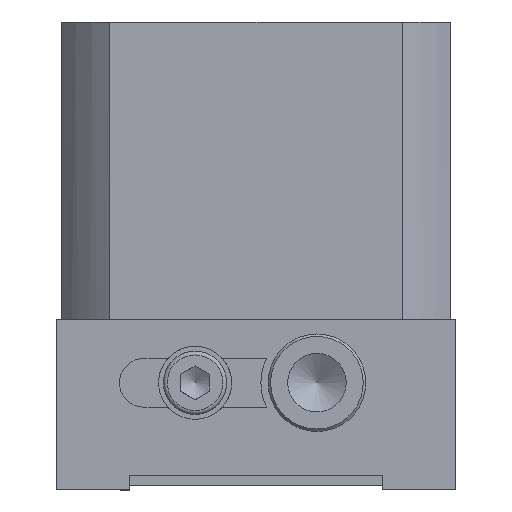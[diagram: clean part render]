
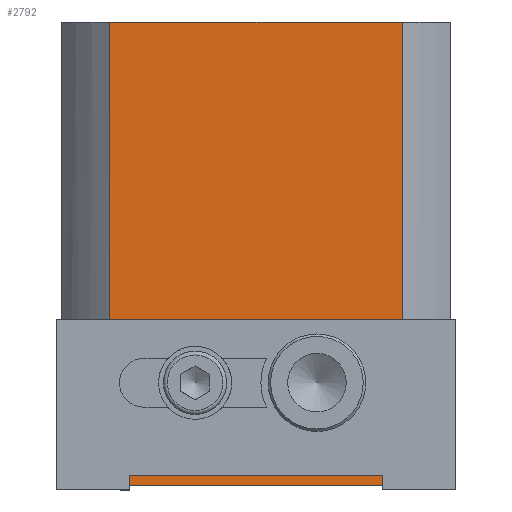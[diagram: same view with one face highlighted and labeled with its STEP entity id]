
A CAD part, left-side view. The second image highlights one B-rep face of the part: STEP entity #2792.
In plain terms, the highlighted planar face has unit normal (-1, 0, 0).
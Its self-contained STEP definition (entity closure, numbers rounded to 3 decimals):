
#157=CARTESIAN_POINT('',(-40.,27.5,-64.));
#158=VERTEX_POINT('',#157);
#159=CARTESIAN_POINT('',(-40.,27.5,-74.0));
#160=DIRECTION('',(-1.0,0.0,0.0));
#161=DIRECTION('',(0.0,-1.0,0.0));
#162=AXIS2_PLACEMENT_3D('',#159,#160,#161);
#163=CIRCLE('',#162,10.0);
#164=EDGE_CURVE('',#158,#158,#163,.T.);
#347=CARTESIAN_POINT('',(-40.,52.5,-64.));
#348=VERTEX_POINT('',#347);
#349=CARTESIAN_POINT('',(-40.,52.5,-74.));
#350=DIRECTION('',(-1.0,0.0,0.0));
#351=DIRECTION('',(0.0,1.0,0.0));
#352=AXIS2_PLACEMENT_3D('',#349,#350,#351);
#353=CIRCLE('',#352,10.0);
#354=EDGE_CURVE('',#348,#348,#353,.T.);
#1611=CARTESIAN_POINT('',(-40.,70.,0.0));
#1612=VERTEX_POINT('',#1611);
#1620=CARTESIAN_POINT('',(-40.,10.,0.0));
#1621=VERTEX_POINT('',#1620);
#1622=CARTESIAN_POINT('',(-40.0,70.,0.0));
#1623=DIRECTION('',(0.0,-1.0,0.0));
#1624=VECTOR('',#1623,60.);
#1625=LINE('',#1622,#1624);
#1626=EDGE_CURVE('',#1612,#1621,#1625,.T.);
#2678=CARTESIAN_POINT('',(-40.,10.,-95.0));
#2679=VERTEX_POINT('',#2678);
#2680=CARTESIAN_POINT('',(-40.,10.,0.0));
#2681=DIRECTION('',(0.0,0.0,-1.0));
#2682=VECTOR('',#2681,95.0);
#2683=LINE('',#2680,#2682);
#2684=EDGE_CURVE('',#1621,#2679,#2683,.T.);
#2741=CARTESIAN_POINT('',(-40.,70.,-95.));
#2742=VERTEX_POINT('',#2741);
#2743=CARTESIAN_POINT('',(-40.,70.,0.0));
#2744=DIRECTION('',(0.0,0.0,-1.0));
#2745=VECTOR('',#2744,95.0);
#2746=LINE('',#2743,#2745);
#2747=EDGE_CURVE('',#1612,#2742,#2746,.T.);
#2770=CARTESIAN_POINT('',(-40.,70.,0.0));
#2771=DIRECTION('',(-1.0,0.0,0.0));
#2772=DIRECTION('',(0.0,0.0,1.0));
#2773=AXIS2_PLACEMENT_3D('',#2770,#2771,#2772);
#2774=PLANE('',#2773);
#2775=ORIENTED_EDGE('',*,*,#2684,.F.);
#2776=ORIENTED_EDGE('',*,*,#1626,.F.);
#2777=ORIENTED_EDGE('',*,*,#2747,.T.);
#2778=CARTESIAN_POINT('',(-40.,70.,-95.));
#2779=DIRECTION('',(0.0,-1.0,0.0));
#2780=VECTOR('',#2779,60.);
#2781=LINE('',#2778,#2780);
#2782=EDGE_CURVE('',#2742,#2679,#2781,.T.);
#2783=ORIENTED_EDGE('',*,*,#2782,.T.);
#2784=EDGE_LOOP('',(#2775,#2776,#2777,#2783));
#2785=FACE_OUTER_BOUND('',#2784,.T.);
#2786=ORIENTED_EDGE('',*,*,#164,.F.);
#2787=EDGE_LOOP('',(#2786));
#2788=FACE_BOUND('',#2787,.T.);
#2789=ORIENTED_EDGE('',*,*,#354,.F.);
#2790=EDGE_LOOP('',(#2789));
#2791=FACE_BOUND('',#2790,.T.);
#2792=ADVANCED_FACE('',(#2785,#2788,#2791),#2774,.T.);
